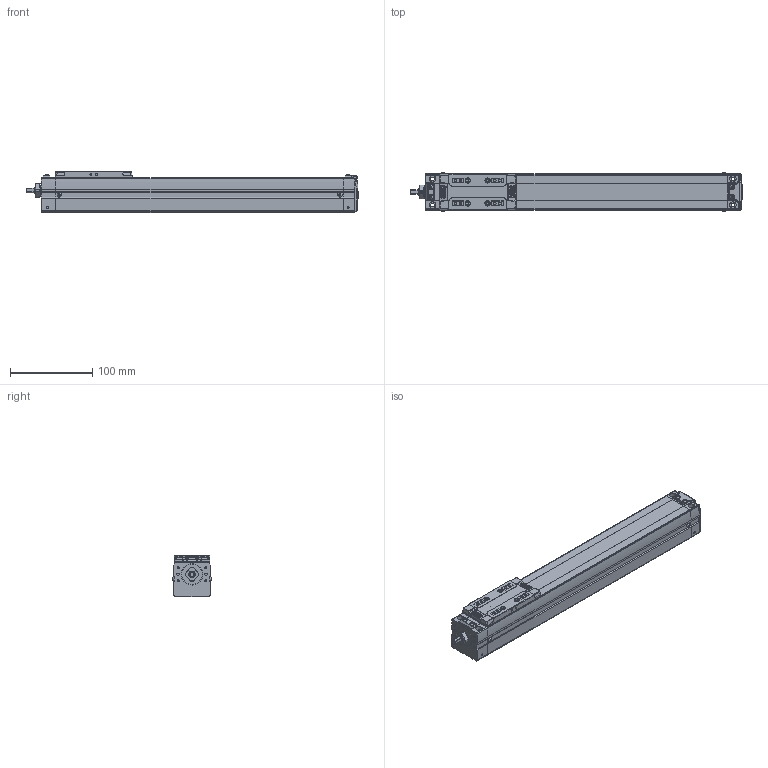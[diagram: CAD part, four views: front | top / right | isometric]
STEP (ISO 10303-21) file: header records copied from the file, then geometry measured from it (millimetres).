
FILE_DESCRIPTION(('STEP AP214'),'1');
FILE_NAME('Z:/Web/3D/SAN45/STP/SAN45ㅁㅁ-250.stp','2012-06-15T04:48:58',(' '),(' '),'Spatial InterOp 3D',' ',' ');
FILE_SCHEMA(('automotive_design'));
Length unit declared in the file: metre
Products named in the file (27): SAN45__-250; BODY-SAN45; REAR-SAN45; RRCV-SAN45; BHCS M3 x 6L; BHCS M3 X 6L; FRONT-SAN45; SHAFT; RN8 x 0.75; SSFX-SAN45; SLIDE-SAN45; SLCV-IM45; FHCS M3 x 6L
Assembly tree (26 placements, depth 3):
  SAN45__-250
    BODY-SAN45
    REAR-SAN45
      REAR-SAN45
      RRCV-SAN45
      BHCS M3 x 6L
      BHCS M3 X 6L
      BHCS M3 x 6L
      BHCS M3 x 6L
      BHCS M3 x 6L
      BHCS M3 x 6L
    FRONT-SAN45
      FRONT-SAN45
      SHAFT
      RN8 x 0.75
      SSFX-SAN45
      BHCS M3 x 6L
      BHCS M3 x 6L
      BHCS M3 x 6L
      BHCS M3 x 6L
    SLIDE-SAN45
      SLIDE-SAN45
      SLCV-IM45
      FHCS M3 x 6L
      FHCS M3 x 6L
      FHCS M3 x 6L
      FHCS M3 x 6L
Bounding box: 404.65 x 47.13 x 50 mm (x, y, z)
Volume: 715083.6 mm3; surface area: 117254.1 mm2
Topology: 23 solids, 23 shells, 1363 faces, 3503 edges, 2276 vertices
Faces by surface type: plane 838, cylinder 389, cone 64, bspline 38, sphere 22, torus 9, extrusion 3
Full cylindrical faces by diameter (mm): 0.376 x2, 0.47 x1, 1.137 x2, 1.421 x1, 1.665 x4, 2.081 x2, 2.2 x4, 2.5 x13, 3 x6, 3.193 x4, 3.3 x4, 3.4 x4, 3.5 x6, 3.991 x2, 4.2 x8, 4.5 x4, 5 x3, 6 x6, 7 x1, 8 x8, 13 x1, 15 x1, 19 x1
Entity records: 55347 total; most frequent: CARTESIAN_POINT 10943, DIRECTION 6869, ORIENTED_EDGE 6578, EDGE_CURVE 3289, AXIS2_PLACEMENT_3D 2303, VECTOR 2263, LINE 2260, VERTEX_POINT 2233
